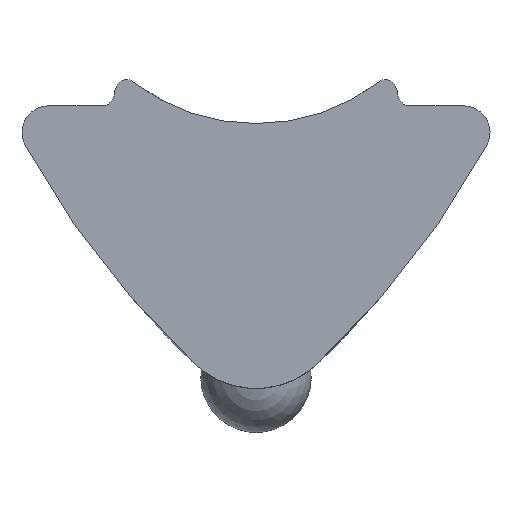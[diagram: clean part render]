
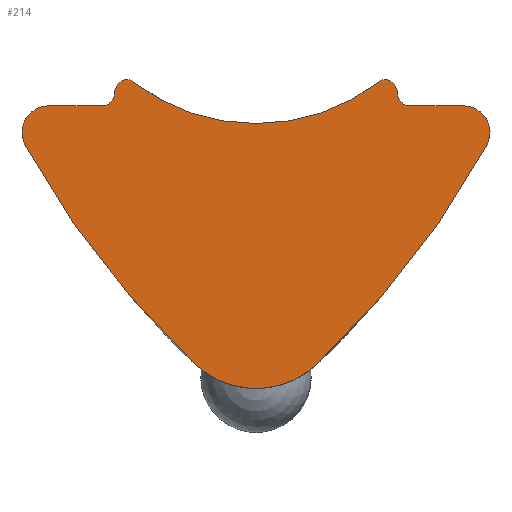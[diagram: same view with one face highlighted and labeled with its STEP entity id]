
A CAD part, front view. The second image highlights one B-rep face of the part: STEP entity #214.
In plain terms, the highlighted planar face has unit normal (0, -1, 0).
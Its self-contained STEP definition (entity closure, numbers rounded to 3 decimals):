
#2 = AXIS2_PLACEMENT_3D ( 'NONE', #668, #267, #539 ) ;
#15 = VERTEX_POINT ( 'NONE', #585 ) ;
#22 = CARTESIAN_POINT ( 'NONE',  ( -12.305, -4.5, 8.137 ) ) ;
#24 = VERTEX_POINT ( 'NONE', #643 ) ;
#26 = CIRCLE ( 'NONE', #2, 0.3 ) ;
#37 = DIRECTION ( 'NONE',  ( 0., 1., 0. ) ) ;
#41 = CIRCLE ( 'NONE', #209, 0.6 ) ;
#55 = VERTEX_POINT ( 'NONE', #456 ) ;
#85 = EDGE_LOOP ( 'NONE', ( #509, #184, #307, #648, #100, #809, #237, #711, #864, #747, #813, #393, #408, #860 ) ) ;
#92 = AXIS2_PLACEMENT_3D ( 'NONE', #199, #772, #204 ) ;
#100 = ORIENTED_EDGE ( 'NONE', *, *, #850, .F. ) ;
#118 = CARTESIAN_POINT ( 'NONE',  ( -2.981, -4.5, -0.289 ) ) ;
#121 = DIRECTION ( 'NONE',  ( 0., 0., 1. ) ) ;
#126 = DIRECTION ( 'NONE',  ( 0., 0., 1. ) ) ;
#138 = DIRECTION ( 'NONE',  ( 0., 1., 0. ) ) ;
#154 = EDGE_CURVE ( 'NONE', #261, #442, #41, .T. ) ;
#162 = AXIS2_PLACEMENT_3D ( 'NONE', #256, #473, #805 ) ;
#167 = DIRECTION ( 'NONE',  ( 0., 0., 1. ) ) ;
#169 = VERTEX_POINT ( 'NONE', #555 ) ;
#170 = DIRECTION ( 'NONE',  ( 0., 1., 0. ) ) ;
#171 = DIRECTION ( 'NONE',  ( 0., 1., 0. ) ) ;
#173 = DIRECTION ( 'NONE',  ( 0., 0., 1. ) ) ;
#176 = AXIS2_PLACEMENT_3D ( 'NONE', #193, #612, #545 ) ;
#184 = ORIENTED_EDGE ( 'NONE', *, *, #741, .F. ) ;
#187 = LINE ( 'NONE', #746, #858 ) ;
#193 = CARTESIAN_POINT ( 'NONE',  ( 0., -4.5, -5. ) ) ;
#194 = AXIS2_PLACEMENT_3D ( 'NONE', #833, #138, #197 ) ;
#197 = DIRECTION ( 'NONE',  ( 0., 0., 1. ) ) ;
#199 = CARTESIAN_POINT ( 'NONE',  ( -2.9, -4.5, -0.3 ) ) ;
#204 = DIRECTION ( 'NONE',  ( 0., 0., 1. ) ) ;
#208 = CARTESIAN_POINT ( 'NONE',  ( -5.226, -4.5, -1.489 ) ) ;
#209 = AXIS2_PLACEMENT_3D ( 'NONE', #800, #170, #167 ) ;
#212 = CARTESIAN_POINT ( 'NONE',  ( -2.799, -4.5, -0.051 ) ) ;
#214 = ADVANCED_FACE ( 'NONE', ( #559 ), #697, .T. ) ;
#222 = CIRCLE ( 'NONE', #176, 2. ) ;
#223 = CIRCLE ( 'NONE', #578, 0.3 ) ;
#234 = CARTESIAN_POINT ( 'NONE',  ( 3.2, -4.5, -0.3 ) ) ;
#237 = ORIENTED_EDGE ( 'NONE', *, *, #331, .T. ) ;
#254 = AXIS2_PLACEMENT_3D ( 'NONE', #851, #503, #557 ) ;
#255 = CIRCLE ( 'NONE', #831, 0.3 ) ;
#256 = CARTESIAN_POINT ( 'NONE',  ( 0., -4.5, 3.6 ) ) ;
#261 = VERTEX_POINT ( 'NONE', #863 ) ;
#263 = CARTESIAN_POINT ( 'NONE',  ( 0., -4.5, -2.8 ) ) ;
#267 = DIRECTION ( 'NONE',  ( 0., 1., 0. ) ) ;
#272 = CIRCLE ( 'NONE', #576, 20. ) ;
#281 = EDGE_CURVE ( 'NONE', #719, #442, #843, .T. ) ;
#298 = CARTESIAN_POINT ( 'NONE',  ( -1.367, -4.5, -6.46 ) ) ;
#302 = CIRCLE ( 'NONE', #254, 0.6 ) ;
#303 = VERTEX_POINT ( 'NONE', #234 ) ;
#307 = ORIENTED_EDGE ( 'NONE', *, *, #902, .F. ) ;
#315 = DIRECTION ( 'NONE',  ( 0., 1., 0. ) ) ;
#319 = CARTESIAN_POINT ( 'NONE',  ( 3.5, -4.5, -0.6 ) ) ;
#320 = VERTEX_POINT ( 'NONE', #792 ) ;
#328 = DIRECTION ( 'NONE',  ( -1., 0., 0. ) ) ;
#331 = EDGE_CURVE ( 'NONE', #15, #320, #26, .T. ) ;
#355 = DIRECTION ( 'NONE',  ( 0., -1., 0. ) ) ;
#362 = EDGE_CURVE ( 'NONE', #479, #544, #272, .T. ) ;
#382 = AXIS2_PLACEMENT_3D ( 'NONE', #263, #355, #547 ) ;
#393 = ORIENTED_EDGE ( 'NONE', *, *, #281, .T. ) ;
#397 = EDGE_CURVE ( 'NONE', #24, #303, #548, .T. ) ;
#401 = DIRECTION ( 'NONE',  ( 0., 0., 1. ) ) ;
#408 = ORIENTED_EDGE ( 'NONE', *, *, #154, .F. ) ;
#417 = EDGE_CURVE ( 'NONE', #479, #719, #222, .T. ) ;
#442 = VERTEX_POINT ( 'NONE', #824 ) ;
#456 = CARTESIAN_POINT ( 'NONE',  ( -4.7, -4.5, -0.6 ) ) ;
#469 = EDGE_CURVE ( 'NONE', #15, #760, #796, .T. ) ;
#473 = DIRECTION ( 'NONE',  ( 0., 1., 0. ) ) ;
#478 = VECTOR ( 'NONE', #732, 1000. ) ;
#479 = VERTEX_POINT ( 'NONE', #298 ) ;
#503 = DIRECTION ( 'NONE',  ( 0., 1., 0. ) ) ;
#509 = ORIENTED_EDGE ( 'NONE', *, *, #397, .T. ) ;
#516 = EDGE_CURVE ( 'NONE', #544, #55, #302, .T. ) ;
#539 = DIRECTION ( 'NONE',  ( 0., 0., 1. ) ) ;
#544 = VERTEX_POINT ( 'NONE', #208 ) ;
#545 = DIRECTION ( 'NONE',  ( 0., 0., 1. ) ) ;
#547 = DIRECTION ( 'NONE',  ( 0., 0., -1. ) ) ;
#548 = CIRCLE ( 'NONE', #905, 0.3 ) ;
#555 = CARTESIAN_POINT ( 'NONE',  ( 2.799, -4.5, -0.051 ) ) ;
#557 = DIRECTION ( 'NONE',  ( 0., 0., 1. ) ) ;
#559 = FACE_OUTER_BOUND ( 'NONE', #85, .T. ) ;
#576 = AXIS2_PLACEMENT_3D ( 'NONE', #673, #884, #126 ) ;
#578 = AXIS2_PLACEMENT_3D ( 'NONE', #118, #315, #757 ) ;
#585 = CARTESIAN_POINT ( 'NONE',  ( -3.2, -4.5, -0.3 ) ) ;
#612 = DIRECTION ( 'NONE',  ( 0., -1., 0. ) ) ;
#618 = CARTESIAN_POINT ( 'NONE',  ( 1.367, -4.5, -6.46 ) ) ;
#622 = AXIS2_PLACEMENT_3D ( 'NONE', #22, #859, #173 ) ;
#643 = CARTESIAN_POINT ( 'NONE',  ( 3.5, -4.5, -0.6 ) ) ;
#648 = ORIENTED_EDGE ( 'NONE', *, *, #875, .T. ) ;
#668 = CARTESIAN_POINT ( 'NONE',  ( -3.5, -4.5, -0.3 ) ) ;
#673 = CARTESIAN_POINT ( 'NONE',  ( 12.305, -4.5, 8.137 ) ) ;
#675 = CIRCLE ( 'NONE', #194, 0.3 ) ;
#683 = LINE ( 'NONE', #319, #478 ) ;
#685 = CARTESIAN_POINT ( 'NONE',  ( 3.5, -4.5, -0.3 ) ) ;
#697 = PLANE ( 'NONE',  #382 ) ;
#711 = ORIENTED_EDGE ( 'NONE', *, *, #822, .T. ) ;
#719 = VERTEX_POINT ( 'NONE', #618 ) ;
#732 = DIRECTION ( 'NONE',  ( 1., 0., 0. ) ) ;
#740 = CARTESIAN_POINT ( 'NONE',  ( 2.9, -4.5, 0. ) ) ;
#741 = EDGE_CURVE ( 'NONE', #883, #303, #675, .T. ) ;
#746 = CARTESIAN_POINT ( 'NONE',  ( 0., -4.5, -0.6 ) ) ;
#747 = ORIENTED_EDGE ( 'NONE', *, *, #362, .F. ) ;
#757 = DIRECTION ( 'NONE',  ( 0., 0., 1. ) ) ;
#760 = VERTEX_POINT ( 'NONE', #762 ) ;
#762 = CARTESIAN_POINT ( 'NONE',  ( -2.9, -4.5, 0. ) ) ;
#772 = DIRECTION ( 'NONE',  ( 0., 1., 0. ) ) ;
#776 = VERTEX_POINT ( 'NONE', #212 ) ;
#792 = CARTESIAN_POINT ( 'NONE',  ( -3.5, -4.5, -0.6 ) ) ;
#796 = CIRCLE ( 'NONE', #92, 0.3 ) ;
#800 = CARTESIAN_POINT ( 'NONE',  ( 4.7, -4.5, -1.2 ) ) ;
#805 = DIRECTION ( 'NONE',  ( 0., 0., 1. ) ) ;
#809 = ORIENTED_EDGE ( 'NONE', *, *, #469, .F. ) ;
#813 = ORIENTED_EDGE ( 'NONE', *, *, #417, .T. ) ;
#818 = CARTESIAN_POINT ( 'NONE',  ( 2.981, -4.5, -0.289 ) ) ;
#822 = EDGE_CURVE ( 'NONE', #320, #55, #187, .T. ) ;
#824 = CARTESIAN_POINT ( 'NONE',  ( 5.226, -4.5, -1.489 ) ) ;
#831 = AXIS2_PLACEMENT_3D ( 'NONE', #818, #171, #401 ) ;
#833 = CARTESIAN_POINT ( 'NONE',  ( 2.9, -4.5, -0.3 ) ) ;
#843 = CIRCLE ( 'NONE', #622, 20. ) ;
#850 = EDGE_CURVE ( 'NONE', #760, #776, #223, .T. ) ;
#851 = CARTESIAN_POINT ( 'NONE',  ( -4.7, -4.5, -1.2 ) ) ;
#858 = VECTOR ( 'NONE', #328, 1000. ) ;
#859 = DIRECTION ( 'NONE',  ( 0., -1., 0. ) ) ;
#860 = ORIENTED_EDGE ( 'NONE', *, *, #912, .F. ) ;
#863 = CARTESIAN_POINT ( 'NONE',  ( 4.7, -4.5, -0.6 ) ) ;
#864 = ORIENTED_EDGE ( 'NONE', *, *, #516, .F. ) ;
#871 = CIRCLE ( 'NONE', #162, 4.6 ) ;
#875 = EDGE_CURVE ( 'NONE', #169, #776, #871, .T. ) ;
#883 = VERTEX_POINT ( 'NONE', #740 ) ;
#884 = DIRECTION ( 'NONE',  ( 0., 1., 0. ) ) ;
#902 = EDGE_CURVE ( 'NONE', #169, #883, #255, .T. ) ;
#905 = AXIS2_PLACEMENT_3D ( 'NONE', #685, #37, #121 ) ;
#912 = EDGE_CURVE ( 'NONE', #24, #261, #683, .T. ) ;
